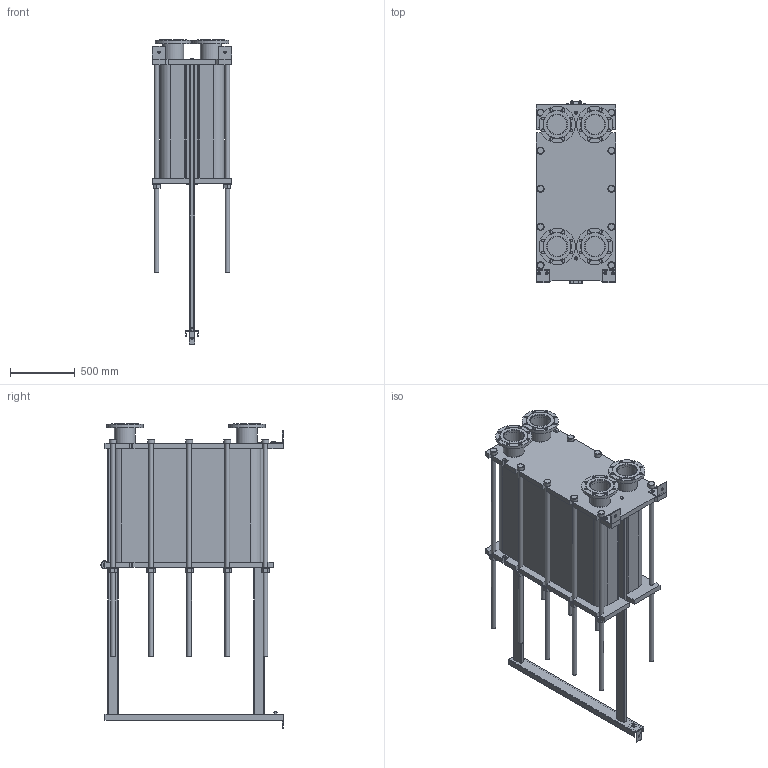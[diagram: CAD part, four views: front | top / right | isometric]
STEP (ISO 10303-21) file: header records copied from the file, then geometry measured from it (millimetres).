
FILE_DESCRIPTION(/* description */ (''),/* implementation_level */ '2;1');
FILE_NAME(/* name */ 'C:\Users\zhuro\Desktop\ENCO\TO\ЭН-041\ЭН-0,5-041-254-1.stp',/* time_stamp */ '2022-06-06T11:10:16+03:00',/* author */ ('zhuro'),/* organization */ (''),/* preprocessor_version */ 'ST-DEVELOPER v18.1',/* originating_system */ 'Autodesk Inventor 2022',/* authorisation */ '');
FILE_SCHEMA (('AUTOMOTIVE_DESIGN { 1 0 10303 214 3 1 1 }'));
Length unit declared in the file: millimetre
Products named in the file (1): ЭН-0,5-041-254-1
Bounding box: 610 x 1406.5 x 2345 mm (x, y, z)
Volume: 584158913.3 mm3; surface area: 12420084.8 mm2
Topology: 52 solids, 52 shells, 711 faces, 1696 edges, 1094 vertices
Faces by surface type: plane 487, cylinder 177, cone 41, torus 6
Full cylindrical faces by diameter (mm): 8 x4, 10 x2, 16 x8, 18 x3, 22 x32, 36 x24, 50 x1, 54 x10, 60 x12, 151 x4, 161 x8, 280 x4
Entity records: 22667 total; most frequent: CARTESIAN_POINT 5230, DIRECTION 3644, ORIENTED_EDGE 3392, EDGE_CURVE 1696, AXIS2_PLACEMENT_3D 1272, LINE 1100, VECTOR 1100, VERTEX_POINT 1094
